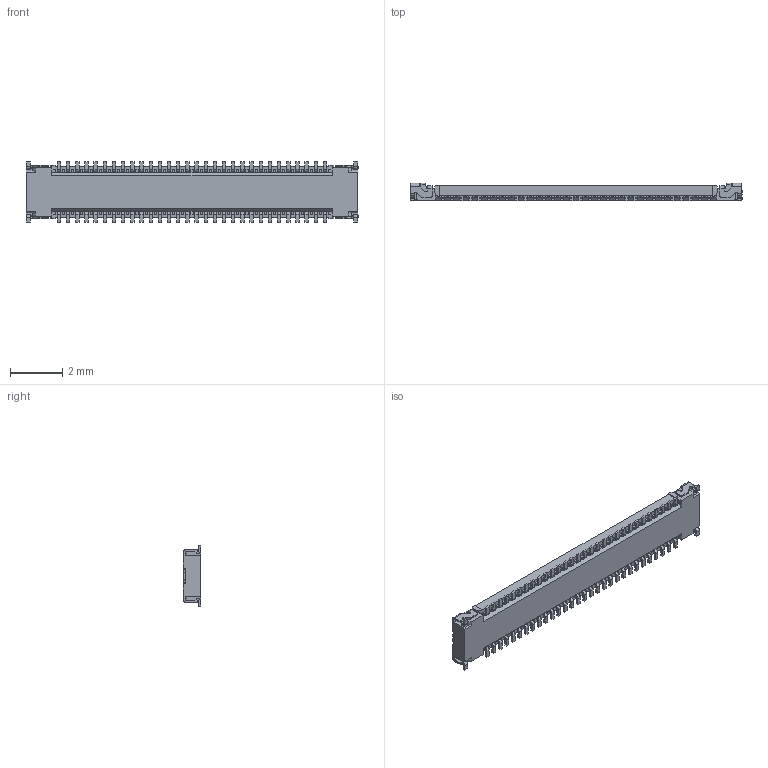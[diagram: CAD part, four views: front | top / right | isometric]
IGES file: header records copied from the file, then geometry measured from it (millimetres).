
Start section: SolidWorks IGES file using analytic representation for surfaces
Global section: file name: C:\3dwork\ota\モデル用20708＆20709 60p追加改定 170502\20709-060E-01C RECE ASS'Y IGES.IGS; native system: SolidWorks 2014; preprocessor: SolidWorks 2014; author: 3DCAD; date: 170502.142307; units: millimetre
Bounding box: 12.67 x 0.67 x 2.3 mm (x, y, z)
Surface area: 104.7 mm2 (no closed solid volume)
Topology: 0 solids, 0 shells, 3049 faces, 17446 edges, 17442 vertices
Faces by surface type: bspline 1975, revolution 1074
